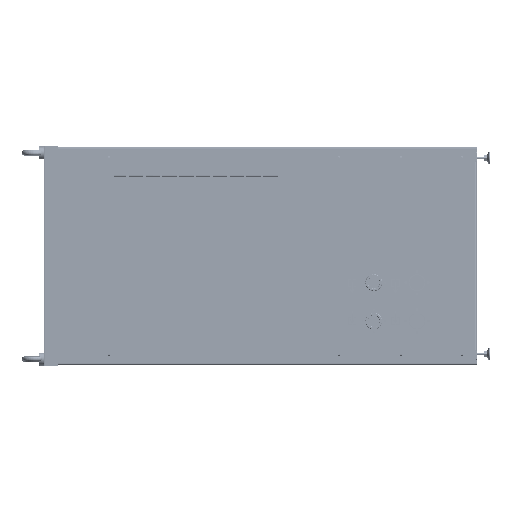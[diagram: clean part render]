
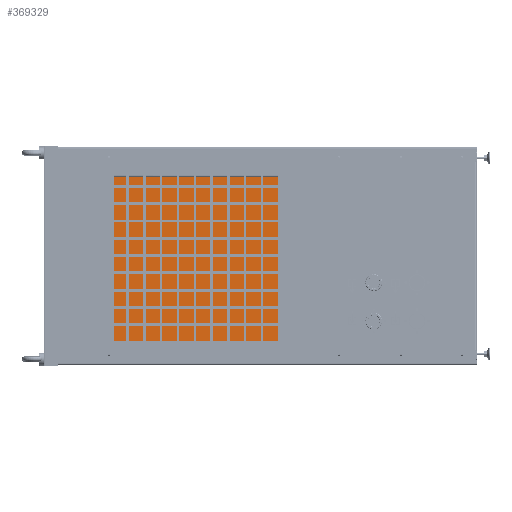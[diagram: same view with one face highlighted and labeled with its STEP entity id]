
A CAD part, left-side view. The second image highlights one B-rep face of the part: STEP entity #369329.
In plain terms, the highlighted planar face has unit normal (-1, 0, 0).
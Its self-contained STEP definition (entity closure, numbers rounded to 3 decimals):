
#7890 = VERTEX_POINT ( 'NONE', #292502 ) ;
#8299 = LINE ( 'NONE', #357886, #134580 ) ;
#43273 = FACE_OUTER_BOUND ( 'NONE', #331726, .T. ) ;
#50353 = CARTESIAN_POINT ( 'NONE',  ( 0., 0., 350. ) ) ;
#69418 = VERTEX_POINT ( 'NONE', #267423 ) ;
#88492 = VECTOR ( 'NONE', #124685, 1000. ) ;
#101104 = CARTESIAN_POINT ( 'NONE',  ( 0., 0., 350. ) ) ;
#103008 = LINE ( 'NONE', #101104, #88492 ) ;
#124685 = DIRECTION ( 'NONE',  ( 0., 0., -1. ) ) ;
#125152 = ORIENTED_EDGE ( 'NONE', *, *, #330071, .T. ) ;
#134580 = VECTOR ( 'NONE', #181205, 1000. ) ;
#138573 = VERTEX_POINT ( 'NONE', #348228 ) ;
#140928 = CARTESIAN_POINT ( 'NONE',  ( 0., 354., 350. ) ) ;
#142082 = ORIENTED_EDGE ( 'NONE', *, *, #352570, .F. ) ;
#160379 = CARTESIAN_POINT ( 'NONE',  ( 0., 354., 350. ) ) ;
#166433 = VERTEX_POINT ( 'NONE', #50353 ) ;
#175425 = LINE ( 'NONE', #238776, #249274 ) ;
#181205 = DIRECTION ( 'NONE',  ( 0., -1., 0. ) ) ;
#190443 = ORIENTED_EDGE ( 'NONE', *, *, #337960, .F. ) ;
#225518 = DIRECTION ( 'NONE',  ( 0., 0., -1. ) ) ;
#227412 = LINE ( 'NONE', #140928, #285961 ) ;
#230211 = AXIS2_PLACEMENT_3D ( 'NONE', #160379, #365913, #277541 ) ;
#236875 = DIRECTION ( 'NONE',  ( 0., -1., 0. ) ) ;
#238776 = CARTESIAN_POINT ( 'NONE',  ( 0., 354., 0. ) ) ;
#249274 = VECTOR ( 'NONE', #236875, 1000. ) ;
#267423 = CARTESIAN_POINT ( 'NONE',  ( 0., 354., 0. ) ) ;
#277541 = DIRECTION ( 'NONE',  ( 0., 0., -1. ) ) ;
#285961 = VECTOR ( 'NONE', #225518, 1000. ) ;
#292502 = CARTESIAN_POINT ( 'NONE',  ( 0., 0., 0. ) ) ;
#306375 = PLANE ( 'NONE',  #230211 ) ;
#318851 = ORIENTED_EDGE ( 'NONE', *, *, #330119, .T. ) ;
#330071 = EDGE_CURVE ( 'NONE', #138573, #69418, #227412, .T. ) ;
#330119 = EDGE_CURVE ( 'NONE', #69418, #7890, #175425, .T. ) ;
#331726 = EDGE_LOOP ( 'NONE', ( #318851, #142082, #190443, #125152 ) ) ;
#337960 = EDGE_CURVE ( 'NONE', #138573, #166433, #8299, .T. ) ;
#348228 = CARTESIAN_POINT ( 'NONE',  ( 0., 354., 350. ) ) ;
#352570 = EDGE_CURVE ( 'NONE', #166433, #7890, #103008, .T. ) ;
#357886 = CARTESIAN_POINT ( 'NONE',  ( 0., 354., 350. ) ) ;
#365913 = DIRECTION ( 'NONE',  ( 1., 0., 0. ) ) ;
#369329 = ADVANCED_FACE ( 'NONE', ( #43273 ), #306375, .F. ) ;
